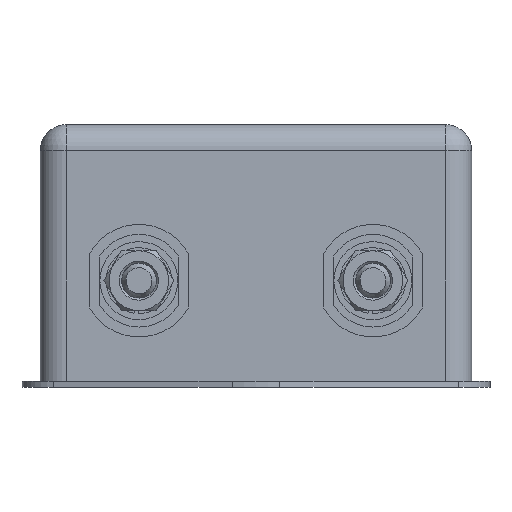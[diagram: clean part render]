
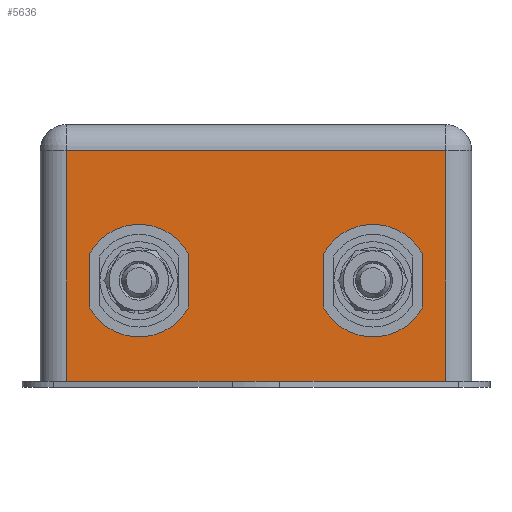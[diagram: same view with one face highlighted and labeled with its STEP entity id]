
A CAD part, left-side view. The second image highlights one B-rep face of the part: STEP entity #5636.
In plain terms, the highlighted planar face has unit normal (-1, 0, 0).
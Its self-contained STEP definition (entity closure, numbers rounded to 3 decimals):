
#3393=CARTESIAN_POINT('',(-32.4,-21.9,0.7));
#3394=VERTEX_POINT('',#3393);
#3402=CARTESIAN_POINT('',(-32.4,21.9,0.7));
#3403=VERTEX_POINT('',#3402);
#3404=CARTESIAN_POINT('',(-32.4,21.9,0.7));
#3405=DIRECTION('',(0.0,-1.0,0.0));
#3406=VECTOR('',#3405,43.8);
#3407=LINE('',#3404,#3406);
#3408=EDGE_CURVE('',#3403,#3394,#3407,.T.);
#3506=CARTESIAN_POINT('',(-32.4,21.9,27.3));
#3507=VERTEX_POINT('',#3506);
#3517=CARTESIAN_POINT('',(-32.4,21.9,0.7));
#3518=DIRECTION('',(0.0,0.0,1.0));
#3519=VECTOR('',#3518,26.6);
#3520=LINE('',#3517,#3519);
#3521=EDGE_CURVE('',#3403,#3507,#3520,.T.);
#3571=CARTESIAN_POINT('',(-32.4,-21.9,27.3));
#3572=VERTEX_POINT('',#3571);
#3582=CARTESIAN_POINT('',(-32.4,-21.9,27.3));
#3583=DIRECTION('',(0.0,0.0,-1.0));
#3584=VECTOR('',#3583,26.6);
#3585=LINE('',#3582,#3584);
#3586=EDGE_CURVE('',#3572,#3394,#3585,.T.);
#3701=CARTESIAN_POINT('',(-32.4,21.9,27.3));
#3702=DIRECTION('',(0.0,-1.0,0.0));
#3703=VECTOR('',#3702,43.8);
#3704=LINE('',#3701,#3703);
#3705=EDGE_CURVE('',#3507,#3572,#3704,.T.);
#4131=CARTESIAN_POINT('',(-32.4,-19.25,9.269));
#4132=VERTEX_POINT('',#4131);
#4133=CARTESIAN_POINT('',(-32.4,-7.75,9.269));
#4134=VERTEX_POINT('',#4133);
#4135=CARTESIAN_POINT('',(-32.4,-13.5,12.3));
#4136=DIRECTION('',(1.,0.,0.));
#4137=DIRECTION('',(0.,0.885,0.466));
#4138=AXIS2_PLACEMENT_3D('',#4135,#4136,#4137);
#4139=CIRCLE('',#4138,6.5);
#4140=EDGE_CURVE('',#4132,#4134,#4139,.T.);
#4173=CARTESIAN_POINT('',(-32.4,-19.25,15.331));
#4174=VERTEX_POINT('',#4173);
#4175=CARTESIAN_POINT('',(-32.4,-19.25,15.331));
#4176=DIRECTION('',(0.0,0.0,-1.0));
#4177=VECTOR('',#4176,6.062);
#4178=LINE('',#4175,#4177);
#4179=EDGE_CURVE('',#4174,#4132,#4178,.T.);
#4204=CARTESIAN_POINT('',(-32.4,-7.75,15.331));
#4205=VERTEX_POINT('',#4204);
#4206=CARTESIAN_POINT('',(-32.4,-13.5,12.3));
#4207=DIRECTION('',(1.,0.,0.));
#4208=DIRECTION('',(0.,-0.885,-0.466));
#4209=AXIS2_PLACEMENT_3D('',#4206,#4207,#4208);
#4210=CIRCLE('',#4209,6.5);
#4211=EDGE_CURVE('',#4205,#4174,#4210,.T.);
#4237=CARTESIAN_POINT('',(-32.4,-7.75,9.269));
#4238=DIRECTION('',(0.0,0.0,1.0));
#4239=VECTOR('',#4238,6.062);
#4240=LINE('',#4237,#4239);
#4241=EDGE_CURVE('',#4134,#4205,#4240,.T.);
#5583=CARTESIAN_POINT('',(-32.4,-24.9,0.0));
#5584=DIRECTION('',(-1.0,0.0,0.0));
#5585=DIRECTION('',(0.0,0.0,1.0));
#5586=AXIS2_PLACEMENT_3D('',#5583,#5584,#5585);
#5587=PLANE('',#5586);
#5588=ORIENTED_EDGE('',*,*,#3705,.F.);
#5589=ORIENTED_EDGE('',*,*,#3521,.F.);
#5590=ORIENTED_EDGE('',*,*,#3408,.T.);
#5591=ORIENTED_EDGE('',*,*,#3586,.F.);
#5592=EDGE_LOOP('',(#5588,#5589,#5590,#5591));
#5593=FACE_OUTER_BOUND('',#5592,.T.);
#5594=ORIENTED_EDGE('',*,*,#4241,.T.);
#5595=ORIENTED_EDGE('',*,*,#4211,.T.);
#5596=ORIENTED_EDGE('',*,*,#4179,.T.);
#5597=ORIENTED_EDGE('',*,*,#4140,.T.);
#5598=EDGE_LOOP('',(#5594,#5595,#5596,#5597));
#5599=FACE_BOUND('',#5598,.T.);
#5600=CARTESIAN_POINT('',(-32.4,19.25,9.269));
#5601=VERTEX_POINT('',#5600);
#5602=CARTESIAN_POINT('',(-32.4,19.25,15.331));
#5603=VERTEX_POINT('',#5602);
#5604=CARTESIAN_POINT('',(-32.4,19.25,9.269));
#5605=DIRECTION('',(0.0,0.0,1.0));
#5606=VECTOR('',#5605,6.062);
#5607=LINE('',#5604,#5606);
#5608=EDGE_CURVE('',#5601,#5603,#5607,.T.);
#5609=ORIENTED_EDGE('',*,*,#5608,.T.);
#5610=CARTESIAN_POINT('',(-32.4,7.75,15.331));
#5611=VERTEX_POINT('',#5610);
#5612=CARTESIAN_POINT('',(-32.4,13.5,12.3));
#5613=DIRECTION('',(1.,0.,0.));
#5614=DIRECTION('',(0.,-0.885,-0.466));
#5615=AXIS2_PLACEMENT_3D('',#5612,#5613,#5614);
#5616=CIRCLE('',#5615,6.5);
#5617=EDGE_CURVE('',#5603,#5611,#5616,.T.);
#5618=ORIENTED_EDGE('',*,*,#5617,.T.);
#5619=CARTESIAN_POINT('',(-32.4,7.75,9.269));
#5620=VERTEX_POINT('',#5619);
#5621=CARTESIAN_POINT('',(-32.4,7.75,15.331));
#5622=DIRECTION('',(0.0,0.0,-1.0));
#5623=VECTOR('',#5622,6.062);
#5624=LINE('',#5621,#5623);
#5625=EDGE_CURVE('',#5611,#5620,#5624,.T.);
#5626=ORIENTED_EDGE('',*,*,#5625,.T.);
#5627=CARTESIAN_POINT('',(-32.4,13.5,12.3));
#5628=DIRECTION('',(1.,0.,0.));
#5629=DIRECTION('',(0.,0.885,0.466));
#5630=AXIS2_PLACEMENT_3D('',#5627,#5628,#5629);
#5631=CIRCLE('',#5630,6.5);
#5632=EDGE_CURVE('',#5620,#5601,#5631,.T.);
#5633=ORIENTED_EDGE('',*,*,#5632,.T.);
#5634=EDGE_LOOP('',(#5609,#5618,#5626,#5633));
#5635=FACE_BOUND('',#5634,.T.);
#5636=ADVANCED_FACE('',(#5593,#5599,#5635),#5587,.T.);
